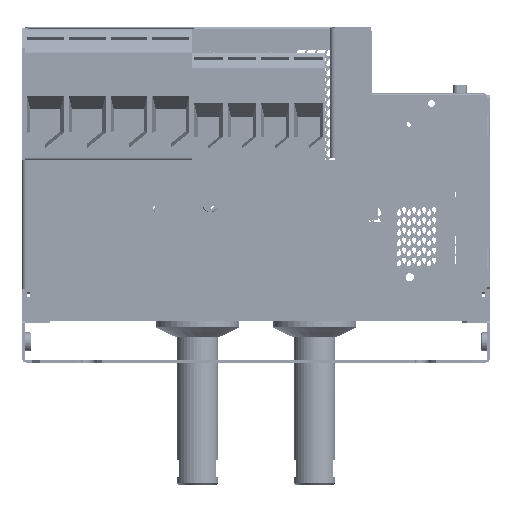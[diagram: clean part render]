
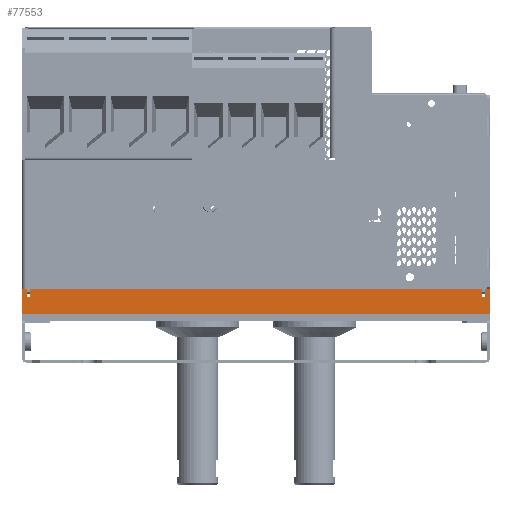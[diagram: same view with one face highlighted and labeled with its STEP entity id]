
A CAD part, front view. The second image highlights one B-rep face of the part: STEP entity #77553.
In plain terms, the highlighted planar face has unit normal (0, -1, 0) as drawn and (0, 1, 0) by its records, which use the part's own axes.
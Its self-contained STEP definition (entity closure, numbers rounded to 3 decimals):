
#2074 = CARTESIAN_POINT ( 'NONE',  ( 30., -30., 0. ) ) ;
#2078 = DIRECTION ( 'NONE',  ( 1., 0., 0. ) ) ;
#5349 = EDGE_CURVE ( 'NONE', #90488, #90824, #69460, .T. ) ;
#30053 = CARTESIAN_POINT ( 'NONE',  ( 30., -30., 15. ) ) ;
#30059 = CARTESIAN_POINT ( 'NONE',  ( 30., -30., 15. ) ) ;
#30156 = DIRECTION ( 'NONE',  ( 1., 0., 0. ) ) ;
#30172 = DIRECTION ( 'NONE',  ( 1., 0., 0. ) ) ;
#30183 = CARTESIAN_POINT ( 'NONE',  ( 34.75, -30., 15. ) ) ;
#30199 = CARTESIAN_POINT ( 'NONE',  ( 310., -30., -10. ) ) ;
#30201 = CARTESIAN_POINT ( 'NONE',  ( 307.25, -30., 10. ) ) ;
#30204 = DIRECTION ( 'NONE',  ( 0., 0., 1. ) ) ;
#30214 = CARTESIAN_POINT ( 'NONE',  ( 30., -30., -10. ) ) ;
#30220 = DIRECTION ( 'NONE',  ( 0., 0., 1. ) ) ;
#30230 = CARTESIAN_POINT ( 'NONE',  ( 34.75, -30., 10. ) ) ;
#30233 = CARTESIAN_POINT ( 'NONE',  ( 307.25, -30., 15. ) ) ;
#30236 = DIRECTION ( 'NONE',  ( -1., 0., 0. ) ) ;
#30239 = DIRECTION ( 'NONE',  ( 0., 0., -1. ) ) ;
#30246 = CARTESIAN_POINT ( 'NONE',  ( 305.25, -30., 15. ) ) ;
#30249 = CARTESIAN_POINT ( 'NONE',  ( 32.75, -30., 15. ) ) ;
#30252 = DIRECTION ( 'NONE',  ( 0., 0., 1. ) ) ;
#30255 = DIRECTION ( 'NONE',  ( -1., 0., 0. ) ) ;
#30264 = DIRECTION ( 'NONE',  ( 0., 0., -1. ) ) ;
#30271 = DIRECTION ( 'NONE',  ( 0., 0., 1. ) ) ;
#31847 = LINE ( 'NONE', #30059, #31862 ) ;
#31859 = LINE ( 'NONE', #30053, #31866 ) ;
#31862 = VECTOR ( 'NONE', #30156, 1000. ) ;
#31866 = VECTOR ( 'NONE', #30172, 1000. ) ;
#31869 = LINE ( 'NONE', #30199, #31872 ) ;
#31871 = LINE ( 'NONE', #30183, #31882 ) ;
#31872 = VECTOR ( 'NONE', #30204, 1000. ) ;
#31873 = LINE ( 'NONE', #30214, #31876 ) ;
#31876 = VECTOR ( 'NONE', #30220, 1000. ) ;
#31877 = LINE ( 'NONE', #30230, #31880 ) ;
#31879 = LINE ( 'NONE', #30201, #31886 ) ;
#31880 = VECTOR ( 'NONE', #30236, 1000. ) ;
#31881 = LINE ( 'NONE', #30246, #31884 ) ;
#31882 = VECTOR ( 'NONE', #30239, 1000. ) ;
#31883 = LINE ( 'NONE', #30233, #31888 ) ;
#31884 = VECTOR ( 'NONE', #30252, 1000. ) ;
#31885 = LINE ( 'NONE', #30249, #31890 ) ;
#31886 = VECTOR ( 'NONE', #30255, 1000. ) ;
#31888 = VECTOR ( 'NONE', #30264, 1000. ) ;
#31890 = VECTOR ( 'NONE', #30271, 1000. ) ;
#37021 = CARTESIAN_POINT ( 'NONE',  ( 30., -30., 15. ) ) ;
#37024 = DIRECTION ( 'NONE',  ( 1., 0., 0. ) ) ;
#44871 = AXIS2_PLACEMENT_3D ( 'NONE', #63034, #63064, #63066 ) ;
#63034 = CARTESIAN_POINT ( 'NONE',  ( 30., -30., -10. ) ) ;
#63059 = PLANE ( 'NONE',  #44871 ) ;
#63064 = DIRECTION ( 'NONE',  ( 0., -1., 0. ) ) ;
#63066 = DIRECTION ( 'NONE',  ( 0., 0., -1. ) ) ;
#64888 = LINE ( 'NONE', #2074, #64892 ) ;
#64892 = VECTOR ( 'NONE', #2078, 1000. ) ;
#69460 = LINE ( 'NONE', #37021, #69465 ) ;
#69465 = VECTOR ( 'NONE', #37024, 1000. ) ;
#77553 = ADVANCED_FACE ( 'NONE', ( #106138 ), #63059, .F. ) ;
#90488 = VERTEX_POINT ( 'NONE', #98569 ) ;
#90537 = VERTEX_POINT ( 'NONE', #98658 ) ;
#90686 = VERTEX_POINT ( 'NONE', #99002 ) ;
#90729 = VERTEX_POINT ( 'NONE', #99115 ) ;
#90757 = VERTEX_POINT ( 'NONE', #99187 ) ;
#90771 = VERTEX_POINT ( 'NONE', #99226 ) ;
#90785 = VERTEX_POINT ( 'NONE', #99258 ) ;
#90824 = VERTEX_POINT ( 'NONE', #99357 ) ;
#90827 = VERTEX_POINT ( 'NONE', #99366 ) ;
#90841 = VERTEX_POINT ( 'NONE', #99403 ) ;
#90855 = VERTEX_POINT ( 'NONE', #99438 ) ;
#90883 = VERTEX_POINT ( 'NONE', #99511 ) ;
#98569 = CARTESIAN_POINT ( 'NONE',  ( 34.75, -30., 15. ) ) ;
#98658 = CARTESIAN_POINT ( 'NONE',  ( 307.25, -30., 15. ) ) ;
#99002 = CARTESIAN_POINT ( 'NONE',  ( 310., -30., 0. ) ) ;
#99115 = CARTESIAN_POINT ( 'NONE',  ( 30., -30., 0. ) ) ;
#99187 = CARTESIAN_POINT ( 'NONE',  ( 32.75, -30., 15. ) ) ;
#99226 = CARTESIAN_POINT ( 'NONE',  ( 30., -30., 15. ) ) ;
#99258 = CARTESIAN_POINT ( 'NONE',  ( 310., -30., 15. ) ) ;
#99357 = CARTESIAN_POINT ( 'NONE',  ( 305.25, -30., 15. ) ) ;
#99366 = CARTESIAN_POINT ( 'NONE',  ( 32.75, -30., 10. ) ) ;
#99403 = CARTESIAN_POINT ( 'NONE',  ( 305.25, -30., 10. ) ) ;
#99438 = CARTESIAN_POINT ( 'NONE',  ( 34.75, -30., 10. ) ) ;
#99511 = CARTESIAN_POINT ( 'NONE',  ( 307.25, -30., 10. ) ) ;
#106138 = FACE_OUTER_BOUND ( 'NONE', #169013, .T. ) ;
#107916 = ORIENTED_EDGE ( 'NONE', *, *, #109938, .F. ) ;
#107919 = ORIENTED_EDGE ( 'NONE', *, *, #109942, .F. ) ;
#107921 = ORIENTED_EDGE ( 'NONE', *, *, #5349, .T. ) ;
#107925 = ORIENTED_EDGE ( 'NONE', *, *, #109945, .F. ) ;
#107930 = ORIENTED_EDGE ( 'NONE', *, *, #109948, .F. ) ;
#107934 = ORIENTED_EDGE ( 'NONE', *, *, #109953, .F. ) ;
#107936 = ORIENTED_EDGE ( 'NONE', *, *, #109906, .T. ) ;
#107939 = ORIENTED_EDGE ( 'NONE', *, *, #109926, .F. ) ;
#107942 = ORIENTED_EDGE ( 'NONE', *, *, #167376, .F. ) ;
#107945 = ORIENTED_EDGE ( 'NONE', *, *, #109932, .T. ) ;
#107950 = ORIENTED_EDGE ( 'NONE', *, *, #109914, .T. ) ;
#107953 = ORIENTED_EDGE ( 'NONE', *, *, #109957, .F. ) ;
#109906 = EDGE_CURVE ( 'NONE', #90537, #90785, #31847, .T. ) ;
#109914 = EDGE_CURVE ( 'NONE', #90771, #90757, #31859, .T. ) ;
#109926 = EDGE_CURVE ( 'NONE', #90686, #90785, #31869, .T. ) ;
#109932 = EDGE_CURVE ( 'NONE', #90729, #90771, #31873, .T. ) ;
#109938 = EDGE_CURVE ( 'NONE', #90855, #90827, #31877, .T. ) ;
#109942 = EDGE_CURVE ( 'NONE', #90488, #90855, #31871, .T. ) ;
#109945 = EDGE_CURVE ( 'NONE', #90841, #90824, #31881, .T. ) ;
#109948 = EDGE_CURVE ( 'NONE', #90883, #90841, #31879, .T. ) ;
#109953 = EDGE_CURVE ( 'NONE', #90537, #90883, #31883, .T. ) ;
#109957 = EDGE_CURVE ( 'NONE', #90827, #90757, #31885, .T. ) ;
#167376 = EDGE_CURVE ( 'NONE', #90729, #90686, #64888, .T. ) ;
#169013 = EDGE_LOOP ( 'NONE', ( #107916, #107919, #107921, #107925, #107930, #107934, #107936, #107939, #107942, #107945, #107950, #107953 ) ) ;
